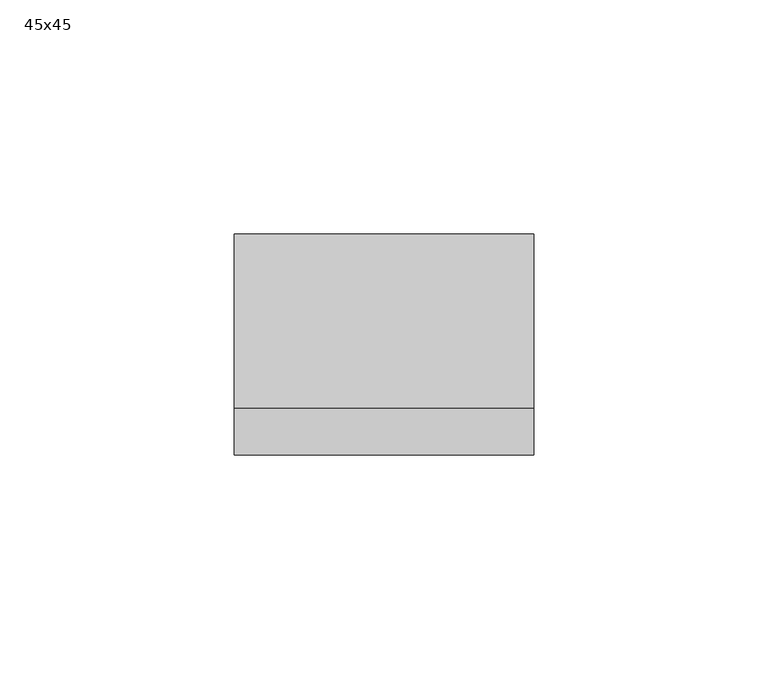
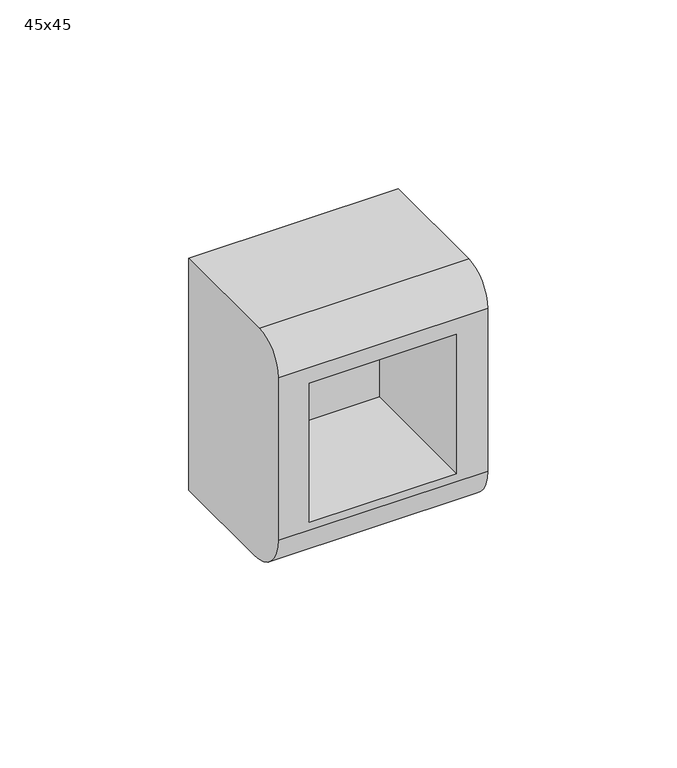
"""IFC4 building model written with IfcOpenShell, lengths in millimetres: proxy geometry, КНС_КоробкаМонтажнаяПод2модуляЭлектроустановочныхИзделий_ILF_DKC : 45x45."""

from ifc_helpers import new_model, si_unit, frame, origin, place, context, project, spatial, circle_curve, source, transform, mapped, element, save
from ifc_brep_helpers import plane_surface, cylinder_surface, advanced_brep


def proxy_45x45_d1c3b26b(model_context):
    return source(origin(), model_context, "Body", "AdvancedBrep", [
        advanced_brep(
        [(32.0, 0.0, -37.5), (32.0, 0.0, 37.5), (32.0, -37.2, 37.5), (32.0, -47.2, 27.5), (32.0, -47.2, -25.0), (32.0, -34.7, -37.5), (-32.0, 0.0, -37.5), (-32.0, -34.7, -37.5), (-32.0, -47.2, -25.0), (-32.0, -47.2, 27.5), (-32.0, -37.2, 37.5), (-32.0, 0.0, 37.5), (-22.5, -6.3084861, 22.5), (-22.5, -6.3084861, -22.5), (22.5, -6.3084861, -22.5), (22.5, -6.3084861, 22.5), (-22.5, -47.2, 22.5), (-22.5, -47.2, -22.5), (22.5, -47.2, -22.5), (22.5, -47.2, 22.5)],
        [
            (0, 1),
            (1, 2),
            (2, 3, circle_curve(frame((32.0, -37.2, 27.5), z_axis=(1.0, 0.0, 0.0), x_axis=(0.0, 1.0, 0.0)), 10.0)),
            (3, 4),
            (4, 5, circle_curve(frame((32.0, -34.7, -25.0), z_axis=(1.0, 0.0, 0.0), x_axis=(0.0, 1.0, 0.0)), 12.5)),
            (5, 0),
            (6, 7),
            (7, 8, circle_curve(frame((-32.0, -34.7, -25.0), z_axis=(-1.0, 0.0, 0.0), x_axis=(0.0, 1.0, 0.0)), 12.5)),
            (8, 9),
            (9, 10, circle_curve(frame((-32.0, -37.2, 27.5), z_axis=(-1.0, 0.0, 0.0), x_axis=(0.0, 1.0, 0.0)), 10.0)),
            (10, 11),
            (11, 6),
            (0, 6),
            (11, 1),
            (10, 2),
            (5, 7),
            (12, 13),
            (13, 14),
            (14, 15),
            (15, 12),
            (12, 16),
            (16, 17),
            (17, 13),
            (17, 18),
            (18, 14),
            (18, 19),
            (19, 15),
            (19, 16),
            (9, 3),
            (8, 4),
        ],
        [
            plane_surface(frame((32.0, 0.0, 37.5), z_axis=(1.0, 0.0, 0.0), x_axis=(0.0, 0.0, 1.0))),
            plane_surface(frame((-32.0, 0.0, 37.5), z_axis=(-1.0, 0.0, 0.0), x_axis=(0.0, 0.0, -1.0))),
            plane_surface(frame((32.0, 0.0, -37.5), z_axis=(0.0, 1.0, 0.0), x_axis=(-1.0, 0.0, 0.0))),
            plane_surface(frame((32.0, 0.0, 37.5), z_axis=(0.0, 0.0, 1.0), x_axis=(-1.0, 0.0, 0.0))),
            plane_surface(frame((32.0, -34.7, -37.5), z_axis=(0.0, 0.0, -1.0), x_axis=(-1.0, 0.0, 0.0))),
            plane_surface(frame((-22.5, -6.3084861, 22.5), z_axis=(0.0, -1.0, 0.0), x_axis=(0.0, 0.0, 1.0))),
            plane_surface(frame((-22.5, -61.0, 22.5), z_axis=(1.0, 0.0, 0.0), x_axis=(0.0, 1.0, 0.0))),
            plane_surface(frame((-22.5, -61.0, -22.5), z_axis=(0.0, 0.0, 1.0), x_axis=(0.0, 1.0, 0.0))),
            plane_surface(frame((22.5, -61.0, -22.5), z_axis=(-1.0, 0.0, 0.0), x_axis=(0.0, 1.0, 0.0))),
            plane_surface(frame((22.5, -61.0, 22.5), z_axis=(0.0, 0.0, -1.0), x_axis=(0.0, 1.0, 0.0))),
            cylinder_surface(frame((-32.0, -37.2, 27.5), z_axis=(1.0, 0.0, 0.0), x_axis=(0.0, 1.0, 0.0)), 10.0),
            plane_surface(frame((32.0, -47.2, 27.5), z_axis=(0.0, -1.0, 0.0), x_axis=(-1.0, 0.0, 0.0))),
            cylinder_surface(frame((-32.0, -34.7, -25.0), z_axis=(1.0, 0.0, 0.0), x_axis=(0.0, 1.0, 0.0)), 12.5),
        ],
        [
            (0, [[1, 2, 3, 4, 5, 6]]),
            (1, [[7, 8, 9, 10, 11, 12]]),
            (2, [[-1, 13, -12, 14]]),
            (3, [[-2, -14, -11, 15]]),
            (4, [[-6, 16, -7, -13]]),
            (5, [[17, 18, 19, 20]]),
            (6, [[-17, 21, 22, 23]]),
            (7, [[-18, -23, 24, 25]]),
            (8, [[-19, -25, 26, 27]]),
            (9, [[-20, -27, 28, -21]]),
            (10, [[-3, -15, -10, 29]]),
            (11, [[-4, -29, -9, 30], [-22, -28, -26, -24]]),
            (12, [[-5, -30, -8, -16]]),
        ],
    ),
    ])


if __name__ == "__main__":
    model = new_model("IFC4")
    model_context = context("Model", 3, world=origin())
    ifc_project = project(units=[si_unit("LENGTHUNIT", "METRE", prefix="MILLI")], contexts=[model_context])
    site = spatial("IfcSite", under=ifc_project)
    building = spatial("IfcBuilding", under=site)
    placement = place(None, origin())
    proxy_45x45_shape = proxy_45x45_d1c3b26b(model_context)
    element("IfcBuildingElementProxy", 1, Name="КНС_КоробкаМонтажнаяПод2модуляЭлектроустановочныхИзделий_ILF_DKC : 45x45", ObjectType="КНС_КоробкаМонтажнаяПод2модуляЭлектроустановочныхИзделий_ILF_DKC : 45x45", at=placement, inside=building, context=model_context, shape_type="MappedRepresentation", body=[
        mapped(proxy_45x45_shape, transform((0.0, 0.0, 0.0), x_axis=(1.0, 0.0, 0.0), y_axis=(0.0, 1.0, 0.0), z_axis=(0.0, 0.0, 1.0))),
    ])
    save(model, "model.ifc")
